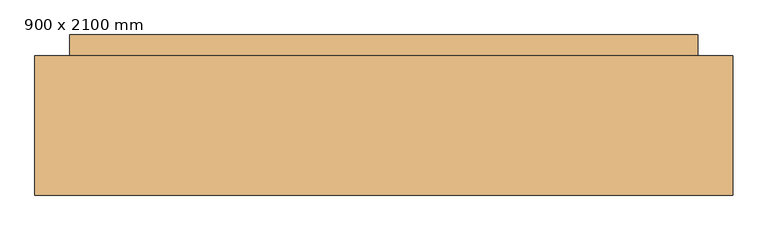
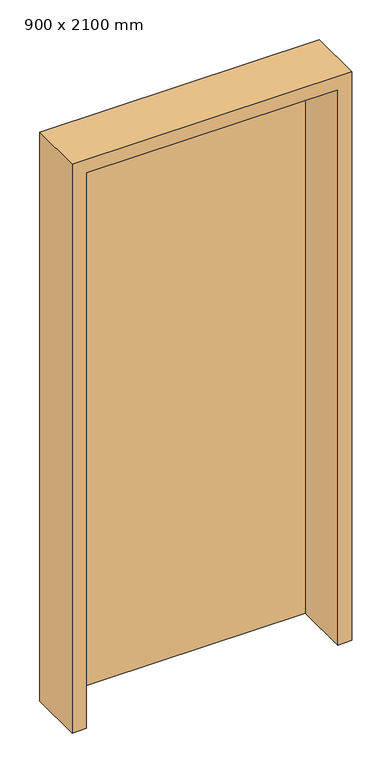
"""IFC4 building model written with IfcOpenShell, lengths in millimetres: door geometry, R_Dveře 1-kř : 900 x 2100 mm."""

from ifc_helpers import new_model, si_unit, frame, origin, origin_with_axes, place, context, project, spatial, polyline, outline, extrude, source, transform, mapped, element, save


def door_900_x_2100_mm_d3767adf(model_context):
    return source(origin(), model_context, "Body", "SweptSolid", [
        extrude(outline(polyline([(450.0, 100.0), (-450.0, 100.0), (-450.0, 130.0), (450.0, 130.0), (450.0, 100.0)])), origin_with_axes(), (0.0, 0.0, 1.0), 2100.0),
        extrude(outline(polyline([(0.0, 450.0), (0.0, 500.0), (2150.0, 500.0), (2150.0, -500.0), (0.0, -500.0), (0.0, -450.0), (2100.0, -450.0), (2100.0, 450.0), (0.0, 450.0)])), frame((0.0, -100.0, 0.0), z_axis=(0.0, 1.0, 0.0), x_axis=(0.0, 0.0, 1.0)), (0.0, 0.0, 1.0), 200.0),
    ])


if __name__ == "__main__":
    model = new_model("IFC4")
    model_context = context("Model", 3, world=origin())
    ifc_project = project(units=[si_unit("LENGTHUNIT", "METRE", prefix="MILLI")], contexts=[model_context])
    site = spatial("IfcSite", under=ifc_project)
    building = spatial("IfcBuilding", under=site)
    placement = place(None, origin())
    door_900_x_2100_mm_shape = door_900_x_2100_mm_d3767adf(model_context)
    element("IfcDoor", 1, ObjectType="R_Dveře 1-kř : 900 x 2100 mm", at=placement, inside=building, context=model_context, shape_type="MappedRepresentation", body=[
        mapped(door_900_x_2100_mm_shape, transform((0.0, 0.0, 0.0), x_axis=(1.0, 0.0, 0.0), y_axis=(0.0, 1.0, 0.0), z_axis=(0.0, 0.0, 1.0))),
    ])
    save(model, "model.ifc")
